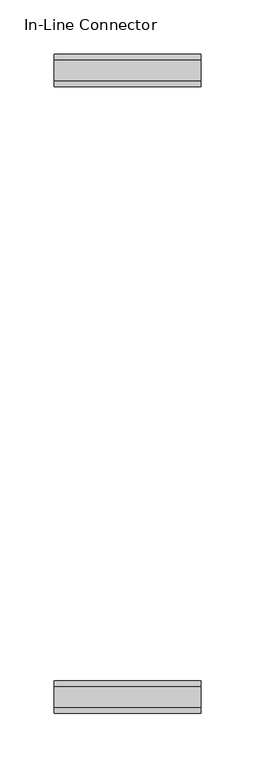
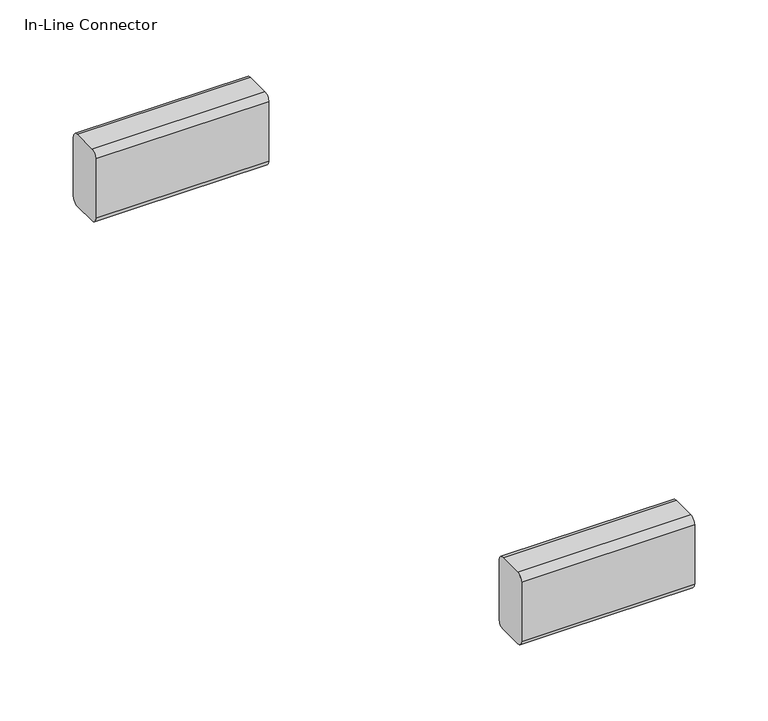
"""IFC4 building model written with IfcOpenShell, lengths in millimetres: furniture geometry, Coalesse_AM_Ensemble_Seat_EndOption : In-Line Connector."""

from ifc_helpers import new_model, si_unit, point, frame, frame_2d, origin, place, context, project, spatial, polyline, circle_curve, trimmed, segment, composite_curve, outline, extrude, source, transform, mapped, element, save


def in_line_connector_66479919(model_context):
    return source(origin(), model_context, "Body", "SweptSolid", [
        extrude(outline(composite_curve([segment(trimmed(circle_curve(frame_2d((-108.865872, 125.0107271)), 5.08), [point((-108.865872, 130.0907271))], [point((-103.785872, 125.0107271))], False, "CARTESIAN"), True, "CONTINUOUS"), segment(polyline([(-103.785872, 125.0107271), (-103.785872, 75.6579413)]), True, "CONTINUOUS"), segment(trimmed(circle_curve(frame_2d((-108.865872, 75.6579413)), 5.08), [point((-103.785872, 75.6579413))], [point((-108.865872, 70.5779413))], False, "CARTESIAN"), True, "CONTINUOUS"), segment(polyline([(-108.865872, 70.5779413), (-129.0980339, 70.5779413)]), True, "CONTINUOUS"), segment(trimmed(circle_curve(frame_2d((-129.0980339, 75.5475648)), 4.9696236), [point((-129.0980339, 70.5779413))], [point((-134.0676575, 75.5475648))], False, "CARTESIAN"), True, "CONTINUOUS"), segment(polyline([(-134.0676575, 75.5475648), (-134.0676575, 125.0107271)]), True, "CONTINUOUS"), segment(trimmed(circle_curve(frame_2d((-128.9876575, 125.0107271)), 5.08), [point((-134.0676575, 125.0107271))], [point((-128.9876575, 130.0907271))], False, "CARTESIAN"), True, "CONTINUOUS"), segment(polyline([(-128.9876575, 130.0907271), (-108.865872, 130.0907271)]), True, "CONTINUOUS")], self_intersect=False)), frame((0.0, 0.0, 0.0), z_axis=(1.0, 0.0, 0.0), x_axis=(0.0, 1.0, 0.0)), (0.0, 0.0, 1.0), 135.9853557),
        extrude(outline(composite_curve([segment(trimmed(circle_curve(frame_2d((-688.6735965, 125.0107271)), 5.08), [point((-688.6735965, 130.0907271))], [point((-683.5935965, 125.0107271))], False, "CARTESIAN"), True, "CONTINUOUS"), segment(polyline([(-683.5935965, 125.0107271), (-683.5935965, 75.6579413)]), True, "CONTINUOUS"), segment(trimmed(circle_curve(frame_2d((-688.6735965, 75.6579413)), 5.08), [point((-683.5935965, 75.6579413))], [point((-688.6735965, 70.5779413))], False, "CARTESIAN"), True, "CONTINUOUS"), segment(polyline([(-688.6735965, 70.5779413), (-708.9057584, 70.5779413)]), True, "CONTINUOUS"), segment(trimmed(circle_curve(frame_2d((-708.9057584, 75.5475648)), 4.9696236), [point((-708.9057584, 70.5779413))], [point((-713.875382, 75.5475648))], False, "CARTESIAN"), True, "CONTINUOUS"), segment(polyline([(-713.875382, 75.5475648), (-713.875382, 125.0107271)]), True, "CONTINUOUS"), segment(trimmed(circle_curve(frame_2d((-708.795382, 125.0107271)), 5.08), [point((-713.875382, 125.0107271))], [point((-708.795382, 130.0907271))], False, "CARTESIAN"), True, "CONTINUOUS"), segment(polyline([(-708.795382, 130.0907271), (-688.6735965, 130.0907271)]), True, "CONTINUOUS")], self_intersect=False)), frame((0.0, 0.0, 0.0), z_axis=(1.0, 0.0, 0.0), x_axis=(0.0, 1.0, 0.0)), (0.0, 0.0, 1.0), 135.9853557),
    ])


if __name__ == "__main__":
    model = new_model("IFC4")
    model_context = context("Model", 3, world=origin())
    ifc_project = project(units=[si_unit("LENGTHUNIT", "METRE", prefix="MILLI")], contexts=[model_context])
    site = spatial("IfcSite", under=ifc_project)
    building = spatial("IfcBuilding", under=site)
    placement = place(None, origin())
    in_line_connector_shape = in_line_connector_66479919(model_context)
    element("IfcFurniture", 1, ObjectType="Coalesse_AM_Ensemble_Seat_EndOption : In-Line Connector", at=placement, inside=building, context=model_context, shape_type="MappedRepresentation", body=[
        mapped(in_line_connector_shape, transform((0.0, 0.0, 0.0), x_axis=(1.0, 0.0, 0.0), y_axis=(0.0, 1.0, 0.0), z_axis=(0.0, 0.0, 1.0))),
    ])
    save(model, "model.ifc")
